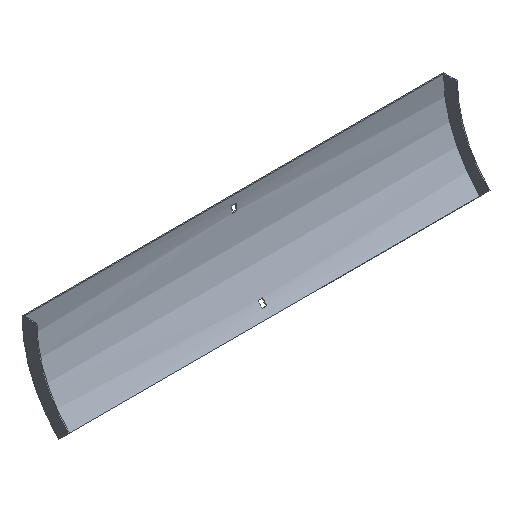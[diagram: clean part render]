
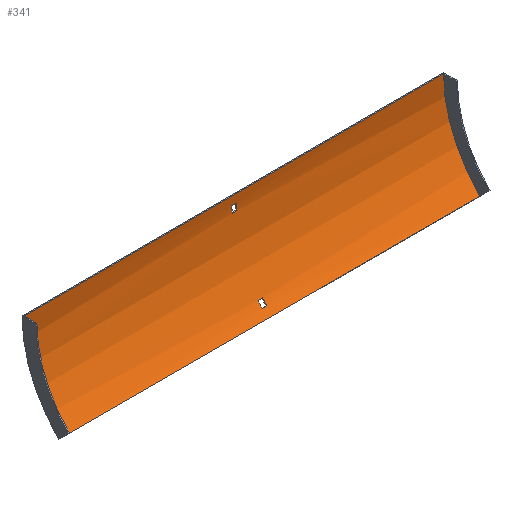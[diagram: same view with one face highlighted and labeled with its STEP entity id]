
A CAD part, isometric view. The second image highlights one B-rep face of the part: STEP entity #341.
In plain terms, the highlighted cylindrical face has radius 179 mm (diameter 358 mm), a partial arc.
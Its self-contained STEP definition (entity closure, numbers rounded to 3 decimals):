
#5 = EDGE_LOOP ( 'NONE', ( #143, #537, #598, #501 ) ) ;
#6 = CARTESIAN_POINT ( 'NONE',  ( -302., -53.928, -126.572 ) ) ;
#10 = DIRECTION ( 'NONE',  ( -1., 0., 0. ) ) ;
#14 = VERTEX_POINT ( 'NONE', #400 ) ;
#15 = CARTESIAN_POINT ( 'NONE',  ( 303.5, -1.903, -12. ) ) ;
#20 = VECTOR ( 'NONE', #235, 1000. ) ;
#22 = DIRECTION ( 'NONE',  ( 0., 0., 1. ) ) ;
#28 = EDGE_CURVE ( 'NONE', #394, #496, #98, .T. ) ;
#36 = DIRECTION ( 'NONE',  ( 0., 0., 1. ) ) ;
#40 = EDGE_CURVE ( 'NONE', #457, #251, #592, .T. ) ;
#43 = DIRECTION ( 'NONE',  ( 0., 0., -1. ) ) ;
#48 = DIRECTION ( 'NONE',  ( 0., 0., 1. ) ) ;
#60 = EDGE_CURVE ( 'NONE', #106, #582, #327, .T. ) ;
#66 = AXIS2_PLACEMENT_3D ( 'NONE', #281, #231, #603 ) ;
#67 = LINE ( 'NONE', #570, #172 ) ;
#71 = CARTESIAN_POINT ( 'NONE',  ( 303.5, -39.953, -110.849 ) ) ;
#82 = CARTESIAN_POINT ( 'NONE',  ( -3.25, -39.953, -110.849 ) ) ;
#96 = CARTESIAN_POINT ( 'NONE',  ( 303.5, -45.727, -117.802 ) ) ;
#98 = LINE ( 'NONE', #184, #140 ) ;
#106 = VERTEX_POINT ( 'NONE', #499 ) ;
#110 = VERTEX_POINT ( 'NONE', #179 ) ;
#112 = VERTEX_POINT ( 'NONE', #272 ) ;
#125 = EDGE_CURVE ( 'NONE', #394, #14, #362, .T. ) ;
#140 = VECTOR ( 'NONE', #553, 1000. ) ;
#142 = DIRECTION ( 'NONE',  ( -1., 0., 0. ) ) ;
#143 = ORIENTED_EDGE ( 'NONE', *, *, #183, .F. ) ;
#157 = ORIENTED_EDGE ( 'NONE', *, *, #300, .T. ) ;
#170 = CARTESIAN_POINT ( 'NONE',  ( -3.25, -180.5, 0. ) ) ;
#172 = VECTOR ( 'NONE', #10, 1000. ) ;
#173 = VERTEX_POINT ( 'NONE', #471 ) ;
#179 = CARTESIAN_POINT ( 'NONE',  ( 3.25, -45.727, -117.802 ) ) ;
#183 = EDGE_CURVE ( 'NONE', #496, #112, #558, .T. ) ;
#184 = CARTESIAN_POINT ( 'NONE',  ( 302., -53.928, -126.572 ) ) ;
#185 = FACE_BOUND ( 'NONE', #356, .T. ) ;
#187 = CARTESIAN_POINT ( 'NONE',  ( 303.5, -2.736, -21. ) ) ;
#188 = CARTESIAN_POINT ( 'NONE',  ( 303.5, -180.5, 0. ) ) ;
#196 = ORIENTED_EDGE ( 'NONE', *, *, #40, .F. ) ;
#208 = DIRECTION ( 'NONE',  ( 1., 0., 0. ) ) ;
#219 = EDGE_CURVE ( 'NONE', #173, #457, #491, .T. ) ;
#221 = AXIS2_PLACEMENT_3D ( 'NONE', #325, #451, #36 ) ;
#223 = ORIENTED_EDGE ( 'NONE', *, *, #219, .F. ) ;
#230 = DIRECTION ( 'NONE',  ( 1., 0., 0. ) ) ;
#231 = DIRECTION ( 'NONE',  ( 1., 0., 0. ) ) ;
#233 = ORIENTED_EDGE ( 'NONE', *, *, #60, .T. ) ;
#235 = DIRECTION ( 'NONE',  ( 1., 0., 0. ) ) ;
#236 = DIRECTION ( 'NONE',  ( -1., 0., 0. ) ) ;
#251 = VERTEX_POINT ( 'NONE', #355 ) ;
#260 = EDGE_LOOP ( 'NONE', ( #157, #233, #571, #292 ) ) ;
#272 = CARTESIAN_POINT ( 'NONE',  ( -302., -1.5, 0. ) ) ;
#278 = CARTESIAN_POINT ( 'NONE',  ( 3.25, -180.5, 0. ) ) ;
#280 = VECTOR ( 'NONE', #236, 1000. ) ;
#281 = CARTESIAN_POINT ( 'NONE',  ( -3.25, -180.5, 0. ) ) ;
#292 = ORIENTED_EDGE ( 'NONE', *, *, #384, .T. ) ;
#300 = EDGE_CURVE ( 'NONE', #110, #106, #456, .T. ) ;
#301 = AXIS2_PLACEMENT_3D ( 'NONE', #454, #230, #43 ) ;
#306 = CARTESIAN_POINT ( 'NONE',  ( -302., -180.5, 0. ) ) ;
#307 = AXIS2_PLACEMENT_3D ( 'NONE', #278, #142, #463 ) ;
#315 = CIRCLE ( 'NONE', #307, 179. ) ;
#320 = EDGE_CURVE ( 'NONE', #251, #555, #401, .T. ) ;
#325 = CARTESIAN_POINT ( 'NONE',  ( 302., -180.5, 0. ) ) ;
#327 = CIRCLE ( 'NONE', #66, 179. ) ;
#329 = VECTOR ( 'NONE', #444, 1000. ) ;
#331 = CARTESIAN_POINT ( 'NONE',  ( 302., -53.928, -126.572 ) ) ;
#332 = ORIENTED_EDGE ( 'NONE', *, *, #320, .F. ) ;
#341 = ADVANCED_FACE ( 'NONE', ( #185, #365, #554 ), #604, .F. ) ;
#355 = CARTESIAN_POINT ( 'NONE',  ( 3.25, -2.736, -21. ) ) ;
#356 = EDGE_LOOP ( 'NONE', ( #223, #487, #332, #196 ) ) ;
#362 = CIRCLE ( 'NONE', #221, 179. ) ;
#365 = FACE_OUTER_BOUND ( 'NONE', #5, .T. ) ;
#368 = DIRECTION ( 'NONE',  ( -1., 0., 0. ) ) ;
#371 = CARTESIAN_POINT ( 'NONE',  ( 3.25, -39.953, -110.849 ) ) ;
#380 = DIRECTION ( 'NONE',  ( -1., 0., 0. ) ) ;
#382 = LINE ( 'NONE', #15, #513 ) ;
#384 = EDGE_CURVE ( 'NONE', #390, #110, #315, .T. ) ;
#390 = VERTEX_POINT ( 'NONE', #371 ) ;
#394 = VERTEX_POINT ( 'NONE', #331 ) ;
#395 = DIRECTION ( 'NONE',  ( 0., 0., 1. ) ) ;
#400 = CARTESIAN_POINT ( 'NONE',  ( 302., -1.5, 0. ) ) ;
#401 = CIRCLE ( 'NONE', #301, 179. ) ;
#405 = AXIS2_PLACEMENT_3D ( 'NONE', #188, #368, #48 ) ;
#444 = DIRECTION ( 'NONE',  ( 1., 0., 0. ) ) ;
#450 = AXIS2_PLACEMENT_3D ( 'NONE', #170, #497, #395 ) ;
#451 = DIRECTION ( 'NONE',  ( 1., 0., 0. ) ) ;
#454 = CARTESIAN_POINT ( 'NONE',  ( 3.25, -180.5, 0. ) ) ;
#456 = LINE ( 'NONE', #96, #280 ) ;
#457 = VERTEX_POINT ( 'NONE', #478 ) ;
#463 = DIRECTION ( 'NONE',  ( 0., 0., 1. ) ) ;
#471 = CARTESIAN_POINT ( 'NONE',  ( -3.25, -1.903, -12. ) ) ;
#478 = CARTESIAN_POINT ( 'NONE',  ( -3.25, -2.736, -21. ) ) ;
#487 = ORIENTED_EDGE ( 'NONE', *, *, #536, .F. ) ;
#491 = CIRCLE ( 'NONE', #450, 179. ) ;
#496 = VERTEX_POINT ( 'NONE', #6 ) ;
#497 = DIRECTION ( 'NONE',  ( -1., 0., 0. ) ) ;
#499 = CARTESIAN_POINT ( 'NONE',  ( -3.25, -45.727, -117.802 ) ) ;
#501 = ORIENTED_EDGE ( 'NONE', *, *, #526, .T. ) ;
#513 = VECTOR ( 'NONE', #380, 1000. ) ;
#521 = AXIS2_PLACEMENT_3D ( 'NONE', #306, #208, #22 ) ;
#526 = EDGE_CURVE ( 'NONE', #14, #112, #67, .T. ) ;
#536 = EDGE_CURVE ( 'NONE', #555, #173, #382, .T. ) ;
#537 = ORIENTED_EDGE ( 'NONE', *, *, #28, .F. ) ;
#542 = LINE ( 'NONE', #71, #329 ) ;
#553 = DIRECTION ( 'NONE',  ( -1., 0., 0. ) ) ;
#554 = FACE_BOUND ( 'NONE', #260, .T. ) ;
#555 = VERTEX_POINT ( 'NONE', #572 ) ;
#558 = CIRCLE ( 'NONE', #521, 179. ) ;
#570 = CARTESIAN_POINT ( 'NONE',  ( 302., -1.5, 0. ) ) ;
#571 = ORIENTED_EDGE ( 'NONE', *, *, #593, .T. ) ;
#572 = CARTESIAN_POINT ( 'NONE',  ( 3.25, -1.903, -12. ) ) ;
#582 = VERTEX_POINT ( 'NONE', #82 ) ;
#592 = LINE ( 'NONE', #187, #20 ) ;
#593 = EDGE_CURVE ( 'NONE', #582, #390, #542, .T. ) ;
#598 = ORIENTED_EDGE ( 'NONE', *, *, #125, .T. ) ;
#603 = DIRECTION ( 'NONE',  ( 0., 0., -1. ) ) ;
#604 = CYLINDRICAL_SURFACE ( 'NONE', #405, 179. ) ;
